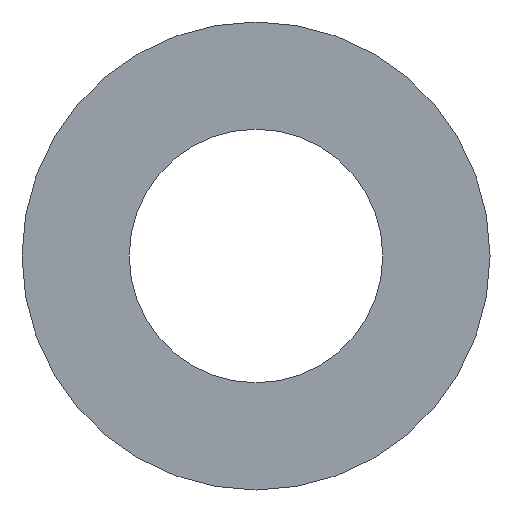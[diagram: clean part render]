
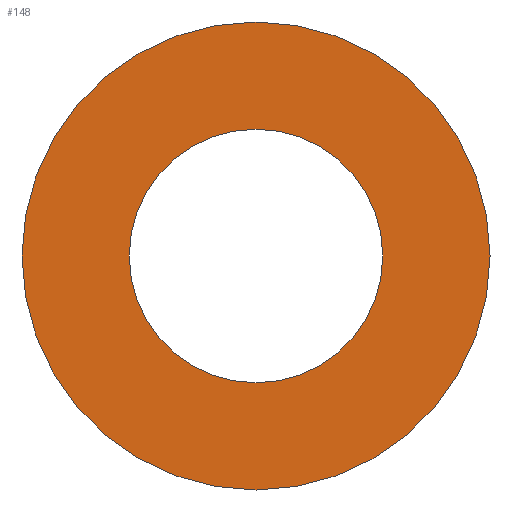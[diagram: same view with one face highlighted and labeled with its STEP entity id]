
A CAD part, front view. The second image highlights one B-rep face of the part: STEP entity #148.
In plain terms, the highlighted planar face has unit normal (0, -1, 0).
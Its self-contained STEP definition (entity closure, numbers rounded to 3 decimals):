
#8 = EDGE_LOOP ( 'NONE', ( #66, #307 ) ) ;
#10 = CARTESIAN_POINT ( 'NONE',  ( 0., -0.5, 6. ) ) ;
#12 = EDGE_CURVE ( 'NONE', #341, #39, #172, .T. ) ;
#18 = CARTESIAN_POINT ( 'NONE',  ( 0., -0.5, 3.25 ) ) ;
#24 = DIRECTION ( 'NONE',  ( 0., 0., 1. ) ) ;
#26 = EDGE_LOOP ( 'NONE', ( #319, #327 ) ) ;
#32 = AXIS2_PLACEMENT_3D ( 'NONE', #166, #163, #161 ) ;
#33 = DIRECTION ( 'NONE',  ( 0., 1., 0. ) ) ;
#37 = CARTESIAN_POINT ( 'NONE',  ( 0., -0.5, 0. ) ) ;
#39 = VERTEX_POINT ( 'NONE', #291 ) ;
#44 = VERTEX_POINT ( 'NONE', #321 ) ;
#49 = DIRECTION ( 'NONE',  ( 0., 0., 1. ) ) ;
#55 = DIRECTION ( 'NONE',  ( 0., 1., 0. ) ) ;
#58 = FACE_OUTER_BOUND ( 'NONE', #26, .T. ) ;
#59 = CARTESIAN_POINT ( 'NONE',  ( 0., -0.5, 0. ) ) ;
#66 = ORIENTED_EDGE ( 'NONE', *, *, #155, .T. ) ;
#75 = AXIS2_PLACEMENT_3D ( 'NONE', #37, #33, #24 ) ;
#78 = FACE_BOUND ( 'NONE', #8, .T. ) ;
#148 = ADVANCED_FACE ( 'NONE', ( #58, #78 ), #175, .F. ) ;
#155 = EDGE_CURVE ( 'NONE', #39, #341, #342, .T. ) ;
#161 = DIRECTION ( 'NONE',  ( 0., 0., 1. ) ) ;
#163 = DIRECTION ( 'NONE',  ( 0., 1., 0. ) ) ;
#165 = CIRCLE ( 'NONE', #75, 6. ) ;
#166 = CARTESIAN_POINT ( 'NONE',  ( 0., -0.5, 0. ) ) ;
#168 = DIRECTION ( 'NONE',  ( 0., 0., 1. ) ) ;
#172 = CIRCLE ( 'NONE', #211, 3.25 ) ;
#173 = DIRECTION ( 'NONE',  ( 0., 1., 0. ) ) ;
#174 = CARTESIAN_POINT ( 'NONE',  ( 0., -0.5, 0. ) ) ;
#175 = PLANE ( 'NONE',  #339 ) ;
#211 = AXIS2_PLACEMENT_3D ( 'NONE', #276, #274, #272 ) ;
#272 = DIRECTION ( 'NONE',  ( 0., 0., 1. ) ) ;
#274 = DIRECTION ( 'NONE',  ( 0., 1., 0. ) ) ;
#276 = CARTESIAN_POINT ( 'NONE',  ( 0., -0.5, 0. ) ) ;
#291 = CARTESIAN_POINT ( 'NONE',  ( 0., -0.5, -3.25 ) ) ;
#296 = EDGE_CURVE ( 'NONE', #44, #337, #305, .T. ) ;
#297 = AXIS2_PLACEMENT_3D ( 'NONE', #59, #55, #49 ) ;
#305 = CIRCLE ( 'NONE', #297, 6. ) ;
#307 = ORIENTED_EDGE ( 'NONE', *, *, #12, .T. ) ;
#319 = ORIENTED_EDGE ( 'NONE', *, *, #296, .F. ) ;
#321 = CARTESIAN_POINT ( 'NONE',  ( 0., -0.5, -6. ) ) ;
#325 = EDGE_CURVE ( 'NONE', #337, #44, #165, .T. ) ;
#327 = ORIENTED_EDGE ( 'NONE', *, *, #325, .F. ) ;
#337 = VERTEX_POINT ( 'NONE', #10 ) ;
#339 = AXIS2_PLACEMENT_3D ( 'NONE', #174, #173, #168 ) ;
#341 = VERTEX_POINT ( 'NONE', #18 ) ;
#342 = CIRCLE ( 'NONE', #32, 3.25 ) ;
